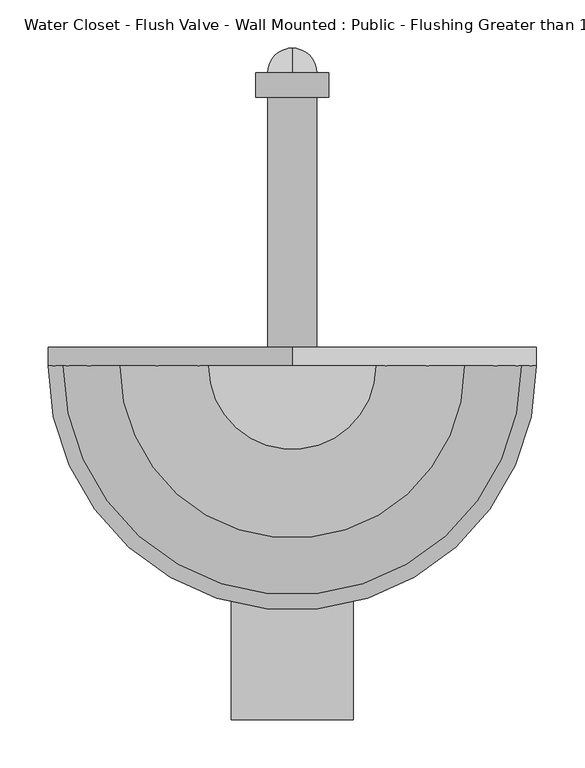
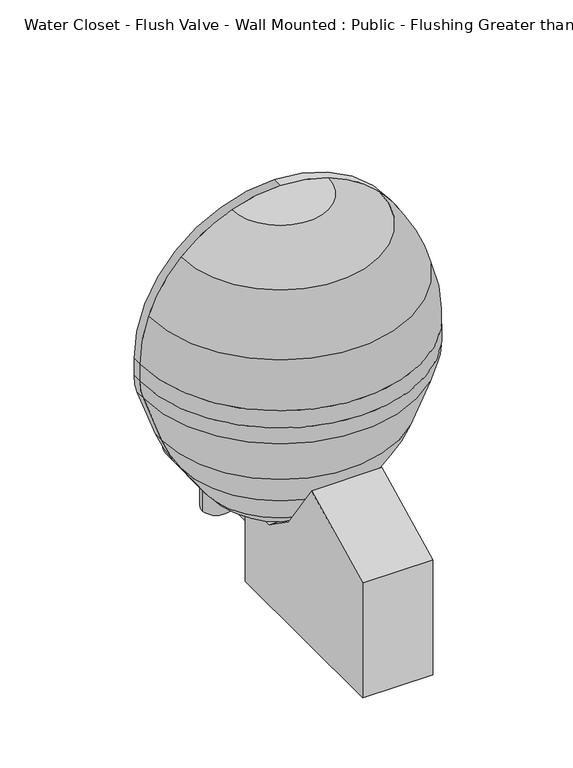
"""IFC4 building model written with IfcOpenShell, lengths in millimetres: flow terminal geometry, Water Closet - Flush Valve - Wall Mounted : Public - Flushing Greater than 1.6 gpf."""

from ifc_helpers import new_model, si_unit, point, frame, frame_2d, origin, origin_with_axes, place, context, project, spatial, polyline, circle_curve, ellipse_curve, trimmed, segment, composite_curve, outline, extrude, source, transform, mapped, element, save
from ifc_brep_helpers import plane_surface, cylinder_surface, revolved_surface, advanced_brep


def water_closet_flush_valve_wall_mounted_public_flushing_c8064052(model_context):
    return source(origin(), model_context, "Body", "SolidModel", [
        extrude(outline(polyline([(56.9324174, 152.8037941), (56.9324174, 0.0), (-311.3675826, 0.0), (-311.3675826, 220.0454017), (-151.9347237, 300.5426282), (-79.0905163, 196.5103185), (-16.6711305, 152.8037941), (56.9324174, 152.8037941)])), frame((-63.5, 0.0, 0.0), z_axis=(1.0, 0.0, 0.0), x_axis=(0.0, 1.0, 0.0)), (0.0, 0.0, 1.0), 127.0),
        extrude(outline(composite_curve([segment(trimmed(circle_curve(frame_2d((70.5352737, 0.0)), 25.4), [point((70.5352737, 25.4))], [point((70.5352737, -25.4))], False, "CARTESIAN"), True, "CONTINUOUS"), segment(trimmed(circle_curve(frame_2d((70.5352737, 0.0)), 25.4), [point((70.5352737, -25.4))], [point((70.5352737, 25.4))], False, "CARTESIAN"), True, "CONTINUOUS")], self_intersect=False)), frame((0.0, 56.9324174, 0.0), z_axis=(0.0, 1.0, 0.0), x_axis=(0.0, 0.0, 1.0)), (0.0, 0.0, 1.0), 279.4),
        extrude(outline(composite_curve([segment(trimmed(circle_curve(frame_2d((0.0, 258.2437815)), 25.4), [point((25.4, 258.2437815))], [point((-25.4, 258.2437815))], False, "CARTESIAN"), True, "CONTINUOUS"), segment(trimmed(circle_curve(frame_2d((0.0, 258.2437815)), 25.4), [point((-25.4, 258.2437815))], [point((25.4, 258.2437815))], False, "CARTESIAN"), True, "CONTINUOUS")], self_intersect=False)), origin_with_axes(), (0.0, 0.0, 1.0), 44.2618987),
        extrude(outline(composite_curve([segment(trimmed(circle_curve(frame_2d((70.5352737, 0.0)), 38.1), [point((70.5352737, 38.1))], [point((70.5352737, -38.1))], False, "CARTESIAN"), True, "CONTINUOUS"), segment(trimmed(circle_curve(frame_2d((70.5352737, 0.0)), 38.1), [point((70.5352737, -38.1))], [point((70.5352737, 38.1))], False, "CARTESIAN"), True, "CONTINUOUS")], self_intersect=False)), frame((0.0, 336.3324174, 0.0), z_axis=(0.0, 1.0, 0.0), x_axis=(0.0, 0.0, 1.0)), (0.0, 0.0, 1.0), 25.4),
        advanced_brep(
        [(0.0, 361.7324174, 44.9176912), (0.0, 361.7324174, 96.1528563), (0.0, 387.35, 70.5352737), (0.0, 361.7324174, 70.5352737)],
        [
            (0, 1, circle_curve(frame((0.0, 361.7324174, 70.5352737), z_axis=(0.0, 1.0, 0.0), x_axis=(0.0, 0.0, 1.0)), 25.6175826)),
            (1, 2, circle_curve(frame((0.0, 361.7324174, 70.5352737), z_axis=(-1.0, 0.0, 0.0), x_axis=(0.0, 0.0, -1.0)), 25.6175826)),
            (2, 0, circle_curve(frame((0.0, 361.7324174, 70.5352737), z_axis=(-1.0, 0.0, 0.0), x_axis=(0.0, 0.0, 1.0)), 25.6175826)),
            (1, 0, circle_curve(frame((0.0, 361.7324174, 70.5352737), z_axis=(0.0, 1.0, 0.0), x_axis=(0.0, 0.0, 1.0)), 25.6175826)),
            (3, 1),
            (0, 3),
        ],
        [
            revolved_surface(trimmed(ellipse_curve(frame((0.0, 361.7324174, 70.5352737), z_axis=(1.0, 0.0, 0.0), x_axis=(0.0, 0.0, -1.0)), 25.6175826, 25.6175826), [point((0.0, 387.35, 70.5352737))], [point((0.0, 361.7324174, 96.1528563))], True, "CARTESIAN"), (0.0, 426.3601447, 70.5352737), (0.0, -1.0, 0.0)),
            plane_surface(frame((0.0, 361.7324174, 70.5352737), z_axis=(0.0, -1.0, 0.0), x_axis=(0.0, 0.0, 1.0))),
        ],
        [
            (0, [[1, 2, 3]]),
            (0, [[4, -3, -2]]),
            (1, [[5, -1, 6]]),
            (1, [[-6, -4, -5]]),
        ],
    ),
        advanced_brep(
        [(-86.8731164, 56.9324174, 721.2819257), (0.0, 56.9324174, 736.6), (0.0, 56.9324174, 711.2), (-78.1858048, 56.9324174, 697.4137331), (-161.6446102, 56.9324174, 644.2446102), (-214.8137331, 56.9324174, 560.7858048), (-228.6, 56.9324174, 482.6), (-228.6, 56.9324174, 449.7148212), (-224.0045777, 56.9324174, 423.6528863), (-191.7324129, 56.9324174, 334.9858422), (-158.0533758, 56.9324174, 270.2890139), (-120.1697426, 56.9324174, 216.1855786), (-63.2399099, 56.9324174, 176.3228806), (0.0, 56.9324174, 159.3777978), (0.0, 56.9324174, 133.0817829), (-78.7437471, 56.9324174, 154.1811063), (-135.6735798, 56.9324174, 194.0438043), (-180.7778621, 56.9324174, 258.4593951), (-214.4568992, 56.9324174, 323.1562234), (-247.8727703, 56.9324174, 414.9655747), (-254.0, 56.9324174, 449.7148212), (-254.0, 56.9324174, 482.6), (-238.6819257, 56.9324174, 569.4731164), (-179.6051224, 56.9324174, 662.2051224), (86.8731164, 56.9324174, 721.2819257), (179.6051224, 56.9324174, 662.2051224), (238.6819257, 56.9324174, 569.4731164), (254.0, 56.9324174, 482.6), (254.0, 56.9324174, 449.7148212), (247.8727703, 56.9324174, 414.9655747), (214.4568992, 56.9324174, 323.1562234), (180.7778621, 56.9324174, 258.4593951), (135.6735798, 56.9324174, 194.0438043), (78.7437471, 56.9324174, 154.1811063), (63.2399099, 56.9324174, 176.3228806), (120.1697426, 56.9324174, 216.1855786), (158.0533758, 56.9324174, 270.2890139), (191.7324129, 56.9324174, 334.9858422), (224.0045777, 56.9324174, 423.6528863), (228.6, 56.9324174, 449.7148212), (228.6, 56.9324174, 482.6), (214.8137331, 56.9324174, 560.7858048), (161.6446102, 56.9324174, 644.2446102), (78.1858048, 56.9324174, 697.4137331)],
        [
            (0, 1, circle_curve(frame((0.0, 56.9324174, 482.6), z_axis=(0.0, 1.0, 0.0), x_axis=(-1.0, 0.0, 0.0)), 254.0)),
            (1, 2),
            (2, 3, circle_curve(frame((0.0, 56.9324174, 482.6), z_axis=(0.0, -1.0, 0.0), x_axis=(-1.0, 0.0, 0.0)), 228.6)),
            (3, 4, circle_curve(frame((0.0, 56.9324174, 482.6), z_axis=(0.0, -1.0, 0.0), x_axis=(-1.0, 0.0, 0.0)), 228.6)),
            (4, 5, circle_curve(frame((0.0, 56.9324174, 482.6), z_axis=(0.0, -1.0, 0.0), x_axis=(-1.0, 0.0, 0.0)), 228.6)),
            (5, 6, circle_curve(frame((0.0, 56.9324174, 482.6), z_axis=(0.0, -1.0, 0.0), x_axis=(-1.0, 0.0, 0.0)), 228.6)),
            (6, 7),
            (7, 8, circle_curve(frame((-152.4, 56.9324174, 449.7148212), z_axis=(0.0, -1.0, 0.0), x_axis=(-1.0, 0.0, 0.0)), 76.2)),
            (8, 9),
            (9, 10, circle_curve(frame((70.8177054, 56.9324174, 430.5462703), z_axis=(0.0, -1.0, 0.0), x_axis=(-1.0, 0.0, 0.0)), 279.4)),
            (10, 11),
            (11, 12, circle_curve(frame((-36.9438949, 56.9324174, 274.4609446), z_axis=(0.0, -1.0, 0.0), x_axis=(-1.0, 0.0, 0.0)), 101.6)),
            (12, 13),
            (13, 14),
            (14, 15),
            (15, 16, circle_curve(frame((-52.4477321, 56.9324174, 252.3191703), z_axis=(0.0, 1.0, 0.0), x_axis=(-1.0, 0.0, 0.0)), 101.6)),
            (16, 17),
            (17, 18, circle_curve(frame((48.0932191, 56.9324174, 418.7166514), z_axis=(0.0, 1.0, 0.0), x_axis=(-1.0, 0.0, 0.0)), 279.4)),
            (18, 19),
            (19, 20, circle_curve(frame((-152.4, 56.9324174, 449.7148212), z_axis=(0.0, 1.0, 0.0), x_axis=(-1.0, 0.0, 0.0)), 101.6)),
            (20, 21),
            (21, 22, circle_curve(frame((0.0, 56.9324174, 482.6), z_axis=(0.0, 1.0, 0.0), x_axis=(-1.0, 0.0, 0.0)), 254.0)),
            (22, 23, circle_curve(frame((0.0, 56.9324174, 482.6), z_axis=(0.0, 1.0, 0.0), x_axis=(-1.0, 0.0, 0.0)), 254.0)),
            (23, 0, circle_curve(frame((0.0, 56.9324174, 482.6), z_axis=(0.0, 1.0, 0.0), x_axis=(-1.0, 0.0, 0.0)), 254.0)),
            (24, 25, circle_curve(frame((0.0, 56.9324174, 482.6), z_axis=(0.0, 1.0, 0.0), x_axis=(1.0, 0.0, 0.0)), 254.0)),
            (25, 26, circle_curve(frame((0.0, 56.9324174, 482.6), z_axis=(0.0, 1.0, 0.0), x_axis=(1.0, 0.0, 0.0)), 254.0)),
            (26, 27, circle_curve(frame((0.0, 56.9324174, 482.6), z_axis=(0.0, 1.0, 0.0), x_axis=(1.0, 0.0, 0.0)), 254.0)),
            (27, 28),
            (28, 29, circle_curve(frame((152.4, 56.9324174, 449.7148212), z_axis=(0.0, 1.0, 0.0), x_axis=(1.0, 0.0, 0.0)), 101.6)),
            (29, 30),
            (30, 31, circle_curve(frame((-48.0932191, 56.9324174, 418.7166514), z_axis=(0.0, 1.0, 0.0), x_axis=(1.0, 0.0, 0.0)), 279.4)),
            (31, 32),
            (32, 33, circle_curve(frame((52.4477321, 56.9324174, 252.3191703), z_axis=(0.0, 1.0, 0.0), x_axis=(1.0, 0.0, 0.0)), 101.6)),
            (33, 14),
            (13, 34),
            (34, 35, circle_curve(frame((36.9438949, 56.9324174, 274.4609446), z_axis=(0.0, -1.0, 0.0), x_axis=(1.0, 0.0, 0.0)), 101.6)),
            (35, 36),
            (36, 37, circle_curve(frame((-70.8177054, 56.9324174, 430.5462703), z_axis=(0.0, -1.0, 0.0), x_axis=(1.0, 0.0, 0.0)), 279.4)),
            (37, 38),
            (38, 39, circle_curve(frame((152.4, 56.9324174, 449.7148212), z_axis=(0.0, -1.0, 0.0), x_axis=(1.0, 0.0, 0.0)), 76.2)),
            (39, 40),
            (40, 41, circle_curve(frame((0.0, 56.9324174, 482.6), z_axis=(0.0, -1.0, 0.0), x_axis=(1.0, 0.0, 0.0)), 228.6)),
            (41, 42, circle_curve(frame((0.0, 56.9324174, 482.6), z_axis=(0.0, -1.0, 0.0), x_axis=(1.0, 0.0, 0.0)), 228.6)),
            (42, 43, circle_curve(frame((0.0, 56.9324174, 482.6), z_axis=(0.0, -1.0, 0.0), x_axis=(1.0, 0.0, 0.0)), 228.6)),
            (43, 2, circle_curve(frame((0.0, 56.9324174, 482.6), z_axis=(0.0, -1.0, 0.0), x_axis=(1.0, 0.0, 0.0)), 228.6)),
            (1, 24, circle_curve(frame((0.0, 56.9324174, 482.6), z_axis=(0.0, 1.0, 0.0), x_axis=(1.0, 0.0, 0.0)), 254.0)),
            (0, 24, circle_curve(frame((0.0, 56.9324174, 721.2819257), z_axis=(0.0, 0.0, 1.0), x_axis=(-1.0, 0.0, 0.0)), 86.8731164)),
            (43, 3, circle_curve(frame((0.0, 56.9324174, 697.4137331), z_axis=(0.0, 0.0, -1.0), x_axis=(-1.0, 0.0, 0.0)), 78.1858048)),
            (42, 4, circle_curve(frame((0.0, 56.9324174, 644.2446102), z_axis=(0.0, 0.0, -1.0), x_axis=(-1.0, 0.0, 0.0)), 161.6446102)),
            (41, 5, circle_curve(frame((0.0, 56.9324174, 560.7858048), z_axis=(0.0, 0.0, -1.0), x_axis=(-1.0, 0.0, 0.0)), 214.8137331)),
            (40, 6, circle_curve(frame((0.0, 56.9324174, 482.6), z_axis=(0.0, 0.0, -1.0), x_axis=(-1.0, 0.0, 0.0)), 228.6)),
            (39, 7, circle_curve(frame((0.0, 56.9324174, 449.7148212), z_axis=(0.0, 0.0, -1.0), x_axis=(-1.0, 0.0, 0.0)), 228.6)),
            (38, 8, circle_curve(frame((0.0, 56.9324174, 423.6528863), z_axis=(0.0, 0.0, -1.0), x_axis=(-1.0, 0.0, 0.0)), 224.0045777)),
            (37, 9, circle_curve(frame((0.0, 56.9324174, 334.9858422), z_axis=(0.0, 0.0, -1.0), x_axis=(-1.0, 0.0, 0.0)), 191.7324129)),
            (36, 10, circle_curve(frame((0.0, 56.9324174, 270.2890139), z_axis=(0.0, 0.0, -1.0), x_axis=(-1.0, 0.0, 0.0)), 158.0533758)),
            (35, 11, circle_curve(frame((0.0, 56.9324174, 216.1855786), z_axis=(0.0, 0.0, -1.0), x_axis=(-1.0, 0.0, 0.0)), 120.1697426)),
            (34, 12, circle_curve(frame((0.0, 56.9324174, 176.3228806), z_axis=(0.0, 0.0, -1.0), x_axis=(-1.0, 0.0, 0.0)), 63.2399099)),
            (33, 15, circle_curve(frame((0.0, 56.9324174, 154.1811063), z_axis=(0.0, 0.0, -1.0), x_axis=(-1.0, 0.0, 0.0)), 78.7437471)),
            (32, 16, circle_curve(frame((0.0, 56.9324174, 194.0438043), z_axis=(0.0, 0.0, -1.0), x_axis=(-1.0, 0.0, 0.0)), 135.6735798)),
            (31, 17, circle_curve(frame((0.0, 56.9324174, 258.4593951), z_axis=(0.0, 0.0, -1.0), x_axis=(-1.0, 0.0, 0.0)), 180.7778621)),
            (30, 18, circle_curve(frame((0.0, 56.9324174, 323.1562234), z_axis=(0.0, 0.0, -1.0), x_axis=(-1.0, 0.0, 0.0)), 214.4568992)),
            (29, 19, circle_curve(frame((0.0, 56.9324174, 414.9655747), z_axis=(0.0, 0.0, -1.0), x_axis=(-1.0, 0.0, 0.0)), 247.8727703)),
            (28, 20, circle_curve(frame((0.0, 56.9324174, 449.7148212), z_axis=(0.0, 0.0, -1.0), x_axis=(-1.0, 0.0, 0.0)), 254.0)),
            (27, 21, circle_curve(frame((0.0, 56.9324174, 482.6), z_axis=(0.0, 0.0, -1.0), x_axis=(-1.0, 0.0, 0.0)), 254.0)),
            (26, 22, circle_curve(frame((0.0, 56.9324174, 569.4731164), z_axis=(0.0, 0.0, -1.0), x_axis=(-1.0, 0.0, 0.0)), 238.6819257)),
            (25, 23, circle_curve(frame((0.0, 56.9324174, 662.2051224), z_axis=(0.0, 0.0, -1.0), x_axis=(-1.0, 0.0, 0.0)), 179.6051224)),
        ],
        [
            plane_surface(frame((0.0, 56.9324174, 841.8102448), z_axis=(0.0, 1.0, 0.0), x_axis=(-1.0, 0.0, 0.0))),
            plane_surface(frame((0.0, 56.9324174, 841.8102448), z_axis=(0.0, 1.0, 0.0), x_axis=(1.0, 0.0, 0.0))),
            revolved_surface(trimmed(ellipse_curve(frame((0.0, 56.9324174, 482.6), z_axis=(0.0, 1.0, 0.0), x_axis=(-1.0, 0.0, 0.0)), 254.0, 254.0), [point((-86.8731164, 56.9324174, 721.2819257))], [point((0.0, 56.9324174, 736.6))], True, "CARTESIAN"), (0.0, 56.9324174, 841.8102448), (0.0, 0.0, 1.0)),
            revolved_surface(trimmed(ellipse_curve(frame((0.0, 56.9324174, 482.6), z_axis=(0.0, -1.0, 0.0), x_axis=(-1.0, 0.0, 0.0)), 228.6, 228.6), [point((0.0, 56.9324174, 711.2))], [point((-78.1858048, 56.9324174, 697.4137331))], True, "CARTESIAN"), (0.0, 56.9324174, 841.8102448), (0.0, 0.0, 1.0)),
            revolved_surface(trimmed(ellipse_curve(frame((0.0, 56.9324174, 482.6), z_axis=(0.0, -1.0, 0.0), x_axis=(-1.0, 0.0, 0.0)), 228.6, 228.6), [point((-78.1858048, 56.9324174, 697.4137331))], [point((-161.6446102, 56.9324174, 644.2446102))], True, "CARTESIAN"), (0.0, 56.9324174, 841.8102448), (0.0, 0.0, 1.0)),
            revolved_surface(trimmed(ellipse_curve(frame((0.0, 56.9324174, 482.6), z_axis=(0.0, -1.0, 0.0), x_axis=(-1.0, 0.0, 0.0)), 228.6, 228.6), [point((-161.6446102, 56.9324174, 644.2446102))], [point((-214.8137331, 56.9324174, 560.7858048))], True, "CARTESIAN"), (0.0, 56.9324174, 841.8102448), (0.0, 0.0, 1.0)),
            revolved_surface(trimmed(ellipse_curve(frame((0.0, 56.9324174, 482.6), z_axis=(0.0, -1.0, 0.0), x_axis=(-1.0, 0.0, 0.0)), 228.6, 228.6), [point((-214.8137331, 56.9324174, 560.7858048))], [point((-228.6, 56.9324174, 482.6))], True, "CARTESIAN"), (0.0, 56.9324174, 841.8102448), (0.0, 0.0, 1.0)),
            revolved_surface(polyline([(-228.6, 56.9324174, 482.6), (-228.6, 56.9324174, 449.7148212)]), (0.0, 56.9324174, 841.8102448), (0.0, 0.0, 1.0)),
            revolved_surface(trimmed(ellipse_curve(frame((-152.4, 56.9324174, 449.7148212), z_axis=(0.0, -1.0, 0.0), x_axis=(-1.0, 0.0, 0.0)), 76.2, 76.2), [point((-228.6, 56.9324174, 449.7148212))], [point((-224.0045777, 56.9324174, 423.6528863))], True, "CARTESIAN"), (0.0, 56.9324174, 841.8102448), (0.0, 0.0, 1.0)),
            revolved_surface(polyline([(-224.0045777, 56.9324174, 423.6528863), (-191.7324129, 56.9324174, 334.9858422)]), (0.0, 56.9324174, 841.8102448), (0.0, 0.0, 1.0)),
            revolved_surface(trimmed(ellipse_curve(frame((70.8177054, 56.9324174, 430.5462703), z_axis=(0.0, -1.0, 0.0), x_axis=(-1.0, 0.0, 0.0)), 279.4, 279.4), [point((-191.7324129, 56.9324174, 334.9858422))], [point((-158.0533758, 56.9324174, 270.2890139))], True, "CARTESIAN"), (0.0, 56.9324174, 841.8102448), (0.0, 0.0, 1.0)),
            revolved_surface(polyline([(-158.0533758, 56.9324174, 270.2890139), (-120.1697426, 56.9324174, 216.1855786)]), (0.0, 56.9324174, 841.8102448), (0.0, 0.0, 1.0)),
            revolved_surface(trimmed(ellipse_curve(frame((-36.9438949, 56.9324174, 274.4609446), z_axis=(0.0, -1.0, 0.0), x_axis=(-1.0, 0.0, 0.0)), 101.6, 101.6), [point((-120.1697426, 56.9324174, 216.1855786))], [point((-63.2399099, 56.9324174, 176.3228806))], True, "CARTESIAN"), (0.0, 56.9324174, 841.8102448), (0.0, 0.0, 1.0)),
            revolved_surface(polyline([(-63.2399099, 56.9324174, 176.3228806), (0.0, 56.9324174, 159.3777978)]), (0.0, 56.9324174, 841.8102448), (0.0, 0.0, 1.0)),
            revolved_surface(polyline([(0.0, 56.9324174, 133.0817829), (-78.7437471, 56.9324174, 154.1811063)]), (0.0, 56.9324174, 841.8102448), (0.0, 0.0, 1.0)),
            revolved_surface(trimmed(ellipse_curve(frame((-52.4477321, 56.9324174, 252.3191703), z_axis=(0.0, 1.0, 0.0), x_axis=(-1.0, 0.0, 0.0)), 101.6, 101.6), [point((-78.7437471, 56.9324174, 154.1811063))], [point((-135.6735798, 56.9324174, 194.0438043))], True, "CARTESIAN"), (0.0, 56.9324174, 841.8102448), (0.0, 0.0, 1.0)),
            revolved_surface(polyline([(-135.6735798, 56.9324174, 194.0438043), (-180.7778621, 56.9324174, 258.4593951)]), (0.0, 56.9324174, 841.8102448), (0.0, 0.0, 1.0)),
            revolved_surface(trimmed(ellipse_curve(frame((48.0932191, 56.9324174, 418.7166514), z_axis=(0.0, 1.0, 0.0), x_axis=(-1.0, 0.0, 0.0)), 279.4, 279.4), [point((-180.7778621, 56.9324174, 258.4593951))], [point((-214.4568992, 56.9324174, 323.1562234))], True, "CARTESIAN"), (0.0, 56.9324174, 841.8102448), (0.0, 0.0, 1.0)),
            revolved_surface(polyline([(-214.4568992, 56.9324174, 323.1562234), (-247.8727703, 56.9324174, 414.9655747)]), (0.0, 56.9324174, 841.8102448), (0.0, 0.0, 1.0)),
            revolved_surface(trimmed(ellipse_curve(frame((-152.4, 56.9324174, 449.7148212), z_axis=(0.0, 1.0, 0.0), x_axis=(-1.0, 0.0, 0.0)), 101.6, 101.6), [point((-247.8727703, 56.9324174, 414.9655747))], [point((-254.0, 56.9324174, 449.7148212))], True, "CARTESIAN"), (0.0, 56.9324174, 841.8102448), (0.0, 0.0, 1.0)),
            cylinder_surface(frame((0.0, 56.9324174, 841.8102448), z_axis=(0.0, 0.0, 1.0), x_axis=(-1.0, 0.0, 0.0)), 254.0),
            revolved_surface(trimmed(ellipse_curve(frame((0.0, 56.9324174, 482.6), z_axis=(0.0, 1.0, 0.0), x_axis=(-1.0, 0.0, 0.0)), 254.0, 254.0), [point((-254.0, 56.9324174, 482.6))], [point((-238.6819257, 56.9324174, 569.4731164))], True, "CARTESIAN"), (0.0, 56.9324174, 841.8102448), (0.0, 0.0, 1.0)),
            revolved_surface(trimmed(ellipse_curve(frame((0.0, 56.9324174, 482.6), z_axis=(0.0, 1.0, 0.0), x_axis=(-1.0, 0.0, 0.0)), 254.0, 254.0), [point((-238.6819257, 56.9324174, 569.4731164))], [point((-179.6051224, 56.9324174, 662.2051224))], True, "CARTESIAN"), (0.0, 56.9324174, 841.8102448), (0.0, 0.0, 1.0)),
            revolved_surface(trimmed(ellipse_curve(frame((0.0, 56.9324174, 482.6), z_axis=(0.0, 1.0, 0.0), x_axis=(-1.0, 0.0, 0.0)), 254.0, 254.0), [point((-179.6051224, 56.9324174, 662.2051224))], [point((-86.8731164, 56.9324174, 721.2819257))], True, "CARTESIAN"), (0.0, 56.9324174, 841.8102448), (0.0, 0.0, 1.0)),
        ],
        [
            (0, [[1, 2, 3, 4, 5, 6, 7, 8, 9, 10, 11, 12, 13, 14, 15, 16, 17, 18, 19, 20, 21, 22, 23, 24]]),
            (1, [[25, 26, 27, 28, 29, 30, 31, 32, 33, 34, -14, 35, 36, 37, 38, 39, 40, 41, 42, 43, 44, 45, -2, 46]]),
            (2, [[-1, 47, -46]]),
            (3, [[48, -3, -45]]),
            (4, [[49, -4, -48, -44]]),
            (5, [[50, -5, -49, -43]]),
            (6, [[51, -6, -50, -42]]),
            (7, [[52, -7, -51, -41]]),
            (8, [[53, -8, -52, -40]]),
            (9, [[54, -9, -53, -39]]),
            (10, [[55, -10, -54, -38]]),
            (11, [[56, -11, -55, -37]]),
            (12, [[57, -12, -56, -36]]),
            (13, [[-13, -57, -35]]),
            (14, [[58, -15, -34]]),
            (15, [[59, -16, -58, -33]]),
            (16, [[60, -17, -59, -32]]),
            (17, [[61, -18, -60, -31]]),
            (18, [[62, -19, -61, -30]]),
            (19, [[63, -20, -62, -29]]),
            (20, [[64, -21, -63, -28]]),
            (21, [[65, -22, -64, -27]]),
            (22, [[66, -23, -65, -26]]),
            (23, [[-47, -24, -66, -25]]),
        ],
    ),
        advanced_brep(
        [(-62.8509631, 75.9824174, 245.0347495), (-62.8509631, 56.9324174, 245.0347495), (-135.6735798, 56.9324174, 194.0438043), (-135.6735798, 75.9824174, 194.0438043), (-107.9552454, 75.9824174, 309.4503403), (-107.9552454, 56.9324174, 309.4503403), (-180.7778621, 56.9324174, 258.4593951), (-180.7778621, 75.9824174, 258.4593951), (-130.9182252, 56.9324174, 353.5618141), (-130.9182252, 75.9824174, 353.5618141), (-214.4568992, 56.9324174, 323.1562234), (-214.4568992, 75.9824174, 323.1562234), (-164.3340963, 75.9824174, 445.3711654), (-164.3340963, 56.9324174, 445.3711654), (-247.8727703, 56.9324174, 414.9655747), (-247.8727703, 75.9824174, 414.9655747), (-165.1, 56.9324174, 449.7148212), (-165.1, 75.9824174, 449.7148212), (-254.0, 56.9324174, 449.7148212), (-254.0, 75.9824174, 449.7148212), (-165.1, 75.9824174, 482.6), (-165.1, 56.9324174, 482.6), (-254.0, 56.9324174, 482.6), (-254.0, 75.9824174, 482.6), (0.0, 56.9324174, 647.7), (0.0, 75.9824174, 647.7), (0.0, 56.9324174, 736.6), (0.0, 75.9824174, 736.6), (165.1, 56.9324174, 482.6), (165.1, 75.9824174, 482.6), (254.0, 56.9324174, 482.6), (254.0, 75.9824174, 482.6), (165.1, 75.9824174, 449.7148212), (165.1, 56.9324174, 449.7148212), (254.0, 56.9324174, 449.7148212), (254.0, 75.9824174, 449.7148212), (164.3340963, 56.9324174, 445.3711654), (164.3340963, 75.9824174, 445.3711654), (247.8727703, 56.9324174, 414.9655747), (247.8727703, 75.9824174, 414.9655747), (130.9182252, 75.9824174, 353.5618141), (130.9182252, 56.9324174, 353.5618141), (214.4568992, 56.9324174, 323.1562234), (214.4568992, 75.9824174, 323.1562234), (107.9552454, 56.9324174, 309.4503403), (107.9552454, 75.9824174, 309.4503403), (180.7778621, 56.9324174, 258.4593951), (180.7778621, 75.9824174, 258.4593951), (62.8509631, 75.9824174, 245.0347495), (135.6735798, 75.9824174, 194.0438043), (135.6735798, 56.9324174, 194.0438043), (62.8509631, 56.9324174, 245.0347495)],
        [
            (0, 1),
            (1, 2),
            (2, 3),
            (3, 0),
            (0, 4),
            (4, 5),
            (5, 1),
            (5, 6),
            (6, 2),
            (6, 7),
            (7, 3),
            (7, 4),
            (8, 5, circle_curve(frame((48.0932191, 56.9324174, 418.7166514), z_axis=(0.0, -1.0, 0.0), x_axis=(-0.81915204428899, 0.0, -0.5735764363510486)), 190.5)),
            (4, 9, circle_curve(frame((48.0932191, 75.9824174, 418.7166514), z_axis=(0.0, 1.0, 0.0), x_axis=(-0.81915204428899, 0.0, -0.5735764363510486)), 190.5)),
            (9, 8),
            (10, 6, circle_curve(frame((48.0932191, 56.9324174, 418.7166514), z_axis=(0.0, -1.0, 0.0), x_axis=(-0.81915204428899, 0.0, -0.5735764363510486)), 279.4)),
            (8, 10),
            (11, 7, circle_curve(frame((48.0932191, 75.9824174, 418.7166514), z_axis=(0.0, -1.0, 0.0), x_axis=(-0.81915204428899, 0.0, -0.5735764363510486)), 279.4)),
            (10, 11),
            (11, 9),
            (9, 12),
            (12, 13),
            (13, 8),
            (13, 14),
            (14, 10),
            (14, 15),
            (15, 11),
            (15, 12),
            (16, 13, circle_curve(frame((-152.4, 56.9324174, 449.7148212), z_axis=(0.0, -1.0, 0.0), x_axis=(-0.9396926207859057, 0.0, -0.3420201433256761)), 12.7)),
            (12, 17, circle_curve(frame((-152.4, 75.9824174, 449.7148212), z_axis=(0.0, 1.0, 0.0), x_axis=(-0.9396926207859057, 0.0, -0.3420201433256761)), 12.7)),
            (17, 16),
            (18, 14, circle_curve(frame((-152.4, 56.9324174, 449.7148212), z_axis=(0.0, -1.0, 0.0), x_axis=(-0.9396926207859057, 0.0, -0.3420201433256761)), 101.6)),
            (16, 18),
            (19, 15, circle_curve(frame((-152.4, 75.9824174, 449.7148212), z_axis=(0.0, -1.0, 0.0), x_axis=(-0.9396926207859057, 0.0, -0.3420201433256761)), 101.6)),
            (18, 19),
            (19, 17),
            (17, 20),
            (20, 21),
            (21, 16),
            (21, 22),
            (22, 18),
            (22, 23),
            (23, 19),
            (23, 20),
            (24, 21, circle_curve(frame((0.0, 56.9324174, 482.6), z_axis=(0.0, -1.0, 0.0), x_axis=(-1.0, 0.0, 0.0)), 165.1)),
            (20, 25, circle_curve(frame((0.0, 75.9824174, 482.6), z_axis=(0.0, 1.0, 0.0), x_axis=(-1.0, 0.0, 0.0)), 165.1)),
            (25, 24),
            (26, 22, circle_curve(frame((0.0, 56.9324174, 482.6), z_axis=(0.0, -1.0, 0.0), x_axis=(-1.0, 0.0, 0.0)), 254.0)),
            (24, 26),
            (27, 23, circle_curve(frame((0.0, 75.9824174, 482.6), z_axis=(0.0, -1.0, 0.0), x_axis=(-1.0, 0.0, 0.0)), 254.0)),
            (26, 27),
            (27, 25),
            (28, 24, circle_curve(frame((0.0, 56.9324174, 482.6), z_axis=(0.0, -1.0, 0.0), x_axis=(0.0, 0.0, 1.0)), 165.1)),
            (25, 29, circle_curve(frame((0.0, 75.9824174, 482.6), z_axis=(0.0, 1.0, 0.0), x_axis=(0.0, 0.0, 1.0)), 165.1)),
            (29, 28),
            (30, 26, circle_curve(frame((0.0, 56.9324174, 482.6), z_axis=(0.0, -1.0, 0.0), x_axis=(0.0, 0.0, 1.0)), 254.0)),
            (28, 30),
            (31, 27, circle_curve(frame((0.0, 75.9824174, 482.6), z_axis=(0.0, -1.0, 0.0), x_axis=(0.0, 0.0, 1.0)), 254.0)),
            (30, 31),
            (31, 29),
            (29, 32),
            (32, 33),
            (33, 28),
            (33, 34),
            (34, 30),
            (34, 35),
            (35, 31),
            (35, 32),
            (36, 33, circle_curve(frame((152.4, 56.9324174, 449.7148212), z_axis=(0.0, -1.0, 0.0), x_axis=(1.0, 0.0, 0.0)), 12.7)),
            (32, 37, circle_curve(frame((152.4, 75.9824174, 449.7148212), z_axis=(0.0, 1.0, 0.0), x_axis=(1.0, 0.0, 0.0)), 12.7)),
            (37, 36),
            (38, 34, circle_curve(frame((152.4, 56.9324174, 449.7148212), z_axis=(0.0, -1.0, 0.0), x_axis=(1.0, 0.0, 0.0)), 101.6)),
            (36, 38),
            (39, 35, circle_curve(frame((152.4, 75.9824174, 449.7148212), z_axis=(0.0, -1.0, 0.0), x_axis=(1.0, 0.0, 0.0)), 101.6)),
            (38, 39),
            (39, 37),
            (37, 40),
            (40, 41),
            (41, 36),
            (41, 42),
            (42, 38),
            (42, 43),
            (43, 39),
            (43, 40),
            (44, 41, circle_curve(frame((-48.0932191, 56.9324174, 418.7166514), z_axis=(0.0, -1.0, 0.0), x_axis=(0.9396926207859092, 0.0, -0.3420201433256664)), 190.5)),
            (40, 45, circle_curve(frame((-48.0932191, 75.9824174, 418.7166514), z_axis=(0.0, 1.0, 0.0), x_axis=(0.9396926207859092, 0.0, -0.3420201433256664)), 190.5)),
            (45, 44),
            (46, 42, circle_curve(frame((-48.0932191, 56.9324174, 418.7166514), z_axis=(0.0, -1.0, 0.0), x_axis=(0.9396926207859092, 0.0, -0.3420201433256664)), 279.4)),
            (44, 46),
            (47, 43, circle_curve(frame((-48.0932191, 75.9824174, 418.7166514), z_axis=(0.0, -1.0, 0.0), x_axis=(0.9396926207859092, 0.0, -0.3420201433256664)), 279.4)),
            (46, 47),
            (47, 45),
            (48, 49),
            (49, 50),
            (50, 51),
            (51, 48),
            (45, 48),
            (51, 44),
            (50, 46),
            (49, 47),
        ],
        [
            plane_surface(frame((-135.6735798, -5.7171191, 194.0438043), z_axis=(0.5735764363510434, 0.0, -0.8191520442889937), x_axis=(0.8191520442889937, 0.0, 0.5735764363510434))),
            plane_surface(frame((-62.8509631, 75.9824174, 245.0347495), z_axis=(0.8191520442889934, 0.0, 0.5735764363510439), x_axis=(-0.5735764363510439, 0.0, 0.8191520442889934))),
            plane_surface(frame((-62.8509631, 56.9324174, 245.0347495), z_axis=(0.0, -1.0, 0.0), x_axis=(-0.5735764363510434, 0.0, 0.8191520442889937))),
            plane_surface(frame((-135.6735798, 56.9324174, 194.0438043), z_axis=(-0.8191520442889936, 0.0, -0.5735764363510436), x_axis=(-0.5735764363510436, 0.0, 0.8191520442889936))),
            plane_surface(frame((-135.6735798, 75.9824174, 194.0438043), z_axis=(0.0, 1.0, 0.0), x_axis=(-0.5735764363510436, 0.0, 0.8191520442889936))),
            revolved_surface(polyline([(-107.95524533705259, 75.9824174, 309.4503402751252), (-107.95524533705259, 56.9324174, 309.4503402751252)]), (48.0932191, 88.6824174, 418.7166514), (0.0, 1.0, 0.0)),
            plane_surface(frame((48.0932191, 56.9324174, 418.7166514), z_axis=(0.0, -1.0, 0.0), x_axis=(-0.81915204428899, 0.0, -0.5735764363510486))),
            cylinder_surface(frame((48.0932191, 88.6824174, 418.7166514), z_axis=(0.0, 1.0, 0.0), x_axis=(-0.81915204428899, 0.0, -0.5735764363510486)), 279.4),
            plane_surface(frame((48.0932191, 75.9824174, 418.7166514), z_axis=(0.0, 1.0, 0.0), x_axis=(-0.81915204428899, 0.0, -0.5735764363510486))),
            plane_surface(frame((-130.9182252, 75.9824174, 353.5618141), z_axis=(0.9396926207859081, 0.0, 0.34202014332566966), x_axis=(-0.34202014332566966, 0.0, 0.9396926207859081))),
            plane_surface(frame((-130.9182252, 56.9324174, 353.5618141), z_axis=(0.0, -1.0000000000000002, 0.0), x_axis=(-0.34202014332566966, 0.0, 0.9396926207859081))),
            plane_surface(frame((-214.4568992, 56.9324174, 323.1562234), z_axis=(-0.939692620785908, 0.0, -0.34202014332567), x_axis=(-0.34202014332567, 0.0, 0.939692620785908))),
            plane_surface(frame((-214.4568992, 75.9824174, 323.1562234), z_axis=(0.0, 1.0, 0.0), x_axis=(-0.3420201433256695, 0.0, 0.9396926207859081))),
            revolved_surface(polyline([(-164.334096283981, 75.9824174, 445.3711653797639), (-164.334096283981, 56.9324174, 445.3711653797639)]), (-152.4, 88.6824174, 449.7148212), (0.0, 1.0, 0.0)),
            plane_surface(frame((-152.4, 56.9324174, 449.7148212), z_axis=(0.0, -1.0000000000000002, 0.0), x_axis=(-0.9396926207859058, 0.0, -0.34202014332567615))),
            cylinder_surface(frame((-152.4, 88.6824174, 449.7148212), z_axis=(0.0, 1.0, 0.0), x_axis=(-0.9396926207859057, 0.0, -0.3420201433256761)), 101.6),
            plane_surface(frame((-152.4, 75.9824174, 449.7148212), z_axis=(0.0, 1.0000000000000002, 0.0), x_axis=(-0.9396926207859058, 0.0, -0.34202014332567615))),
            plane_surface(frame((-165.1, 75.9824174, 449.7148212), z_axis=(1.0, 0.0, 0.0), x_axis=(0.0, 0.0, 1.0))),
            plane_surface(frame((-165.1, 56.9324174, 449.7148212), z_axis=(0.0, -1.0, 0.0), x_axis=(0.0, 0.0, 1.0))),
            plane_surface(frame((-254.0, 56.9324174, 449.7148212), z_axis=(-1.0, 0.0, 0.0), x_axis=(0.0, 0.0, 1.0))),
            plane_surface(frame((-254.0, 75.9824174, 449.7148212), z_axis=(0.0, 1.0, 0.0), x_axis=(0.0, 0.0, 1.0))),
            revolved_surface(polyline([(-165.1, 75.9824174, 482.6), (-165.1, 56.9324174, 482.6)]), (0.0, 88.6824174, 482.6), (0.0, 1.0, 0.0)),
            plane_surface(frame((0.0, 56.9324174, 482.6), z_axis=(0.0, -1.0, 0.0), x_axis=(-1.0, 0.0, 0.0))),
            cylinder_surface(frame((0.0, 88.6824174, 482.6), z_axis=(0.0, 1.0, 0.0), x_axis=(-1.0, 0.0, 0.0)), 254.0),
            plane_surface(frame((0.0, 75.9824174, 482.6), z_axis=(0.0, 1.0, 0.0), x_axis=(-1.0, 0.0, 0.0))),
            revolved_surface(polyline([(0.0, 75.9824174, 647.7), (0.0, 56.9324174, 647.7)]), (0.0, 88.6824174, 482.6), (0.0, 1.0, 0.0)),
            plane_surface(frame((0.0, 56.9324174, 482.6), z_axis=(0.0, -1.0, 0.0), x_axis=(0.0, 0.0, 1.0))),
            cylinder_surface(frame((0.0, 88.6824174, 482.6), z_axis=(0.0, 1.0, 0.0), x_axis=(0.0, 0.0, 1.0)), 254.0),
            plane_surface(frame((0.0, 75.9824174, 482.6), z_axis=(0.0, 1.0, 0.0), x_axis=(0.0, 0.0, 1.0))),
            plane_surface(frame((165.1, 75.9824174, 482.6), z_axis=(-1.0, 0.0, 0.0), x_axis=(0.0, 0.0, -1.0))),
            plane_surface(frame((165.1, 56.9324174, 482.6), z_axis=(0.0, -1.0, 0.0), x_axis=(0.0, 0.0, -1.0))),
            plane_surface(frame((254.0, 56.9324174, 482.6), z_axis=(1.0, 0.0, 0.0), x_axis=(0.0, 0.0, -1.0))),
            plane_surface(frame((254.0, 75.9824174, 482.6), z_axis=(0.0, 1.0, 0.0), x_axis=(0.0, 0.0, -1.0))),
            revolved_surface(polyline([(165.1, 75.9824174, 449.7148212), (165.1, 56.9324174, 449.7148212)]), (152.4, 88.6824174, 449.7148212), (0.0, 1.0, 0.0)),
            plane_surface(frame((152.4, 56.9324174, 449.7148212), z_axis=(0.0, -1.0, 0.0), x_axis=(1.0, 0.0, 0.0))),
            cylinder_surface(frame((152.4, 88.6824174, 449.7148212), z_axis=(0.0, 1.0, 0.0), x_axis=(1.0, 0.0, 0.0)), 101.6),
            plane_surface(frame((152.4, 75.9824174, 449.7148212), z_axis=(0.0, 1.0, 0.0), x_axis=(1.0, 0.0, 0.0))),
            plane_surface(frame((164.3340963, 75.9824174, 445.3711654), z_axis=(-0.9396926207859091, 0.0, 0.3420201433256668), x_axis=(-0.3420201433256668, 0.0, -0.9396926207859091))),
            plane_surface(frame((164.3340963, 56.9324174, 445.3711654), z_axis=(0.0, -1.0, 0.0), x_axis=(-0.3420201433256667, 0.0, -0.9396926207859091))),
            plane_surface(frame((247.8727703, 56.9324174, 414.9655747), z_axis=(0.9396926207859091, 0.0, -0.3420201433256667), x_axis=(-0.3420201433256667, 0.0, -0.9396926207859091))),
            plane_surface(frame((247.8727703, 75.9824174, 414.9655747), z_axis=(0.0, 1.0, 0.0), x_axis=(-0.3420201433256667, 0.0, -0.9396926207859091))),
            revolved_surface(polyline([(130.91822515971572, 75.9824174, 353.5618140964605), (130.91822515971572, 56.9324174, 353.5618140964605)]), (-48.0932191, 88.6824174, 418.7166514), (0.0, 1.0, 0.0)),
            plane_surface(frame((-48.0932191, 56.9324174, 418.7166514), z_axis=(0.0, -1.0000000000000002, 0.0), x_axis=(0.9396926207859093, 0.0, -0.34202014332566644))),
            cylinder_surface(frame((-48.0932191, 88.6824174, 418.7166514), z_axis=(0.0, 1.0, 0.0), x_axis=(0.9396926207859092, 0.0, -0.3420201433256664)), 279.4),
            plane_surface(frame((-48.0932191, 75.9824174, 418.7166514), z_axis=(0.0, 1.0000000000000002, 0.0), x_axis=(0.9396926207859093, 0.0, -0.34202014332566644))),
            plane_surface(frame((135.6735798, 183.081954, 194.0438043), z_axis=(-0.5735764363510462, 0.0, -0.8191520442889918), x_axis=(0.8191520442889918, 0.0, -0.5735764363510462))),
            plane_surface(frame((107.9552454, 75.9824174, 309.4503403), z_axis=(-0.8191520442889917, 0.0, 0.5735764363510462), x_axis=(-0.5735764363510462, 0.0, -0.8191520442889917))),
            plane_surface(frame((107.9552454, 56.9324174, 309.4503403), z_axis=(0.0, -1.0, 0.0), x_axis=(-0.573576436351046, 0.0, -0.8191520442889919))),
            plane_surface(frame((180.7778621, 56.9324174, 258.4593951), z_axis=(0.8191520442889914, 0.0, -0.5735764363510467), x_axis=(-0.5735764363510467, 0.0, -0.8191520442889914))),
            plane_surface(frame((180.7778621, 75.9824174, 258.4593951), z_axis=(0.0, 1.0000000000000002, 0.0), x_axis=(-0.5735764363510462, 0.0, -0.8191520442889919))),
        ],
        [
            (0, [[1, 2, 3, 4]]),
            (1, [[-1, 5, 6, 7]]),
            (2, [[-2, -7, 8, 9]]),
            (3, [[-3, -9, 10, 11]]),
            (4, [[-4, -11, 12, -5]]),
            (5, [[13, -6, 14, 15]]),
            (6, [[16, -8, -13, 17]]),
            (7, [[18, -10, -16, 19]]),
            (8, [[-14, -12, -18, 20]]),
            (9, [[-15, 21, 22, 23]]),
            (10, [[-17, -23, 24, 25]]),
            (11, [[-19, -25, 26, 27]]),
            (12, [[-20, -27, 28, -21]]),
            (13, [[29, -22, 30, 31]]),
            (14, [[32, -24, -29, 33]]),
            (15, [[34, -26, -32, 35]]),
            (16, [[-30, -28, -34, 36]]),
            (17, [[-31, 37, 38, 39]]),
            (18, [[-33, -39, 40, 41]]),
            (19, [[-35, -41, 42, 43]]),
            (20, [[-36, -43, 44, -37]]),
            (21, [[45, -38, 46, 47]]),
            (22, [[48, -40, -45, 49]]),
            (23, [[50, -42, -48, 51]]),
            (24, [[-46, -44, -50, 52]]),
            (25, [[53, -47, 54, 55]]),
            (26, [[56, -49, -53, 57]]),
            (27, [[58, -51, -56, 59]]),
            (28, [[-54, -52, -58, 60]]),
            (29, [[-55, 61, 62, 63]]),
            (30, [[-57, -63, 64, 65]]),
            (31, [[-59, -65, 66, 67]]),
            (32, [[-60, -67, 68, -61]]),
            (33, [[69, -62, 70, 71]]),
            (34, [[72, -64, -69, 73]]),
            (35, [[74, -66, -72, 75]]),
            (36, [[-70, -68, -74, 76]]),
            (37, [[-71, 77, 78, 79]]),
            (38, [[-73, -79, 80, 81]]),
            (39, [[-75, -81, 82, 83]]),
            (40, [[-76, -83, 84, -77]]),
            (41, [[85, -78, 86, 87]]),
            (42, [[88, -80, -85, 89]]),
            (43, [[90, -82, -88, 91]]),
            (44, [[-86, -84, -90, 92]]),
            (45, [[93, 94, 95, 96]]),
            (46, [[-87, 97, -96, 98]]),
            (47, [[-89, -98, -95, 99]]),
            (48, [[-91, -99, -94, 100]]),
            (49, [[-92, -100, -93, -97]]),
        ],
    ),
        extrude(outline(polyline([(245.0347495, -62.8509631), (194.0438043, -135.6735798), (169.0933226, -110.7230981), (145.0485961, -44.6607552), (145.0485961, 44.6607552), (169.0933226, 110.7230981), (194.0438043, 135.6735798), (245.0347495, 62.8509631), (245.0347495, -62.8509631)])), frame((0.0, 56.9324174, 0.0), z_axis=(0.0, 1.0, 0.0), x_axis=(0.0, 0.0, 1.0)), (0.0, 0.0, 1.0), 19.05),
        extrude(outline(composite_curve([segment(trimmed(circle_curve(frame_2d((0.0, -197.0675826)), 38.1), [point((-38.1, -197.0675826))], [point((0.0, -158.9675826))], False, "CARTESIAN"), True, "CONTINUOUS"), segment(trimmed(circle_curve(frame_2d((0.0, -197.0675826)), 38.1), [point((0.0, -158.9675826))], [point((38.1, -197.0675826))], False, "CARTESIAN"), True, "CONTINUOUS"), segment(trimmed(circle_curve(frame_2d((0.0, -197.0675826)), 38.1), [point((38.1, -197.0675826))], [point((0.0, -235.1675826))], False, "CARTESIAN"), True, "CONTINUOUS"), segment(trimmed(circle_curve(frame_2d((0.0, -197.0675826)), 38.1), [point((0.0, -235.1675826))], [point((-38.1, -197.0675826))], False, "CARTESIAN"), True, "CONTINUOUS")], self_intersect=False)), origin_with_axes(), (0.0, 0.0, 1.0), 87.028921),
    ])


if __name__ == "__main__":
    model = new_model("IFC4")
    model_context = context("Model", 3, world=origin())
    ifc_project = project(units=[si_unit("LENGTHUNIT", "METRE", prefix="MILLI")], contexts=[model_context])
    site = spatial("IfcSite", under=ifc_project)
    building = spatial("IfcBuilding", under=site)
    placement = place(None, origin())
    water_closet_flush_valve_wall_mounted_public_flushing_shape = water_closet_flush_valve_wall_mounted_public_flushing_c8064052(model_context)
    element("IfcFlowTerminal", 1, ObjectType="Water Closet - Flush Valve - Wall Mounted : Public - Flushing Greater than 1.6 gpf", at=placement, inside=building, context=model_context, shape_type="MappedRepresentation", body=[
        mapped(water_closet_flush_valve_wall_mounted_public_flushing_shape, transform((0.0, 0.0, 0.0), x_axis=(1.0, 0.0, 0.0), y_axis=(0.0, 1.0, 0.0), z_axis=(0.0, 0.0, 1.0))),
    ])
    save(model, "model.ifc")
